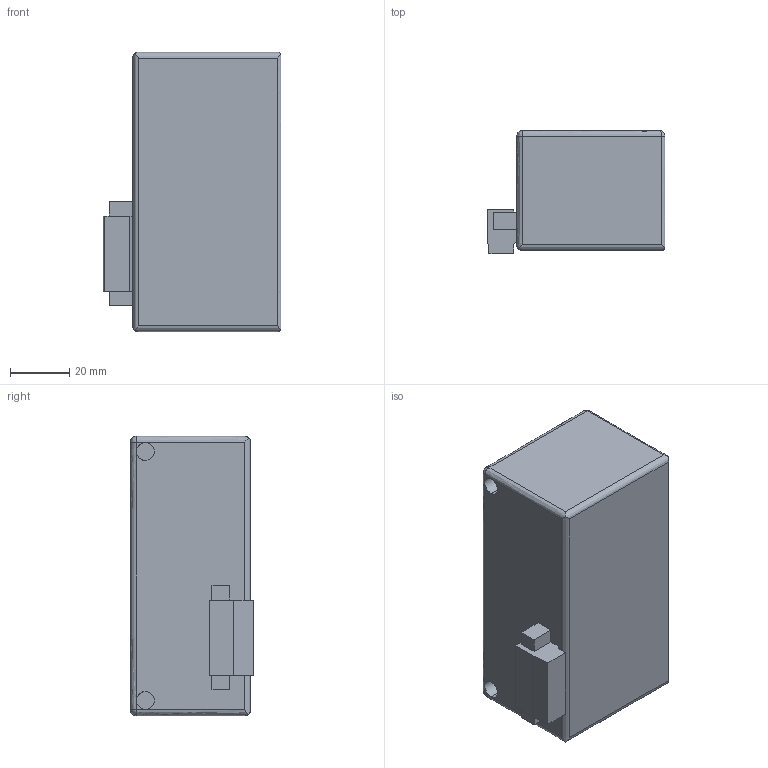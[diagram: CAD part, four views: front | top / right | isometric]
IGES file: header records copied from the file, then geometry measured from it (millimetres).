
Start section: ------------------------------------------------------------------------
Global section: file name: D:\ICADMX\tmp\trans3d_spg\CVICAD32.14756.YS6Dx_10283.igs; native system: spGate; preprocessor: ver12.6.6; author: Unknown; organization: Unknown; date: 200909.091812; units: millimetre
Bounding box: 60 x 41.5 x 94.4 mm (x, y, z)
Volume: 192671.8 mm3; surface area: 23170.5 mm2
Topology: 1 solids, 1 shells, 44 faces, 113 edges, 68 vertices
Faces by surface type: bspline 44
